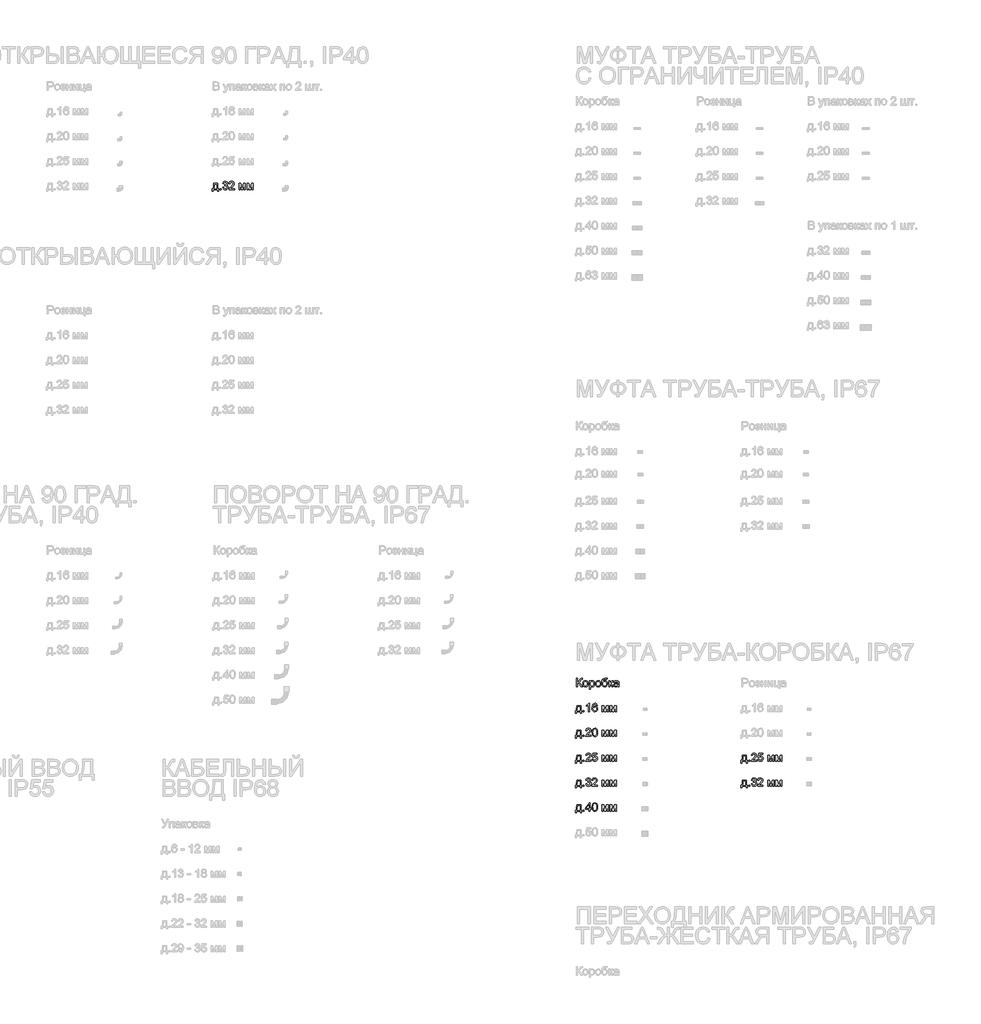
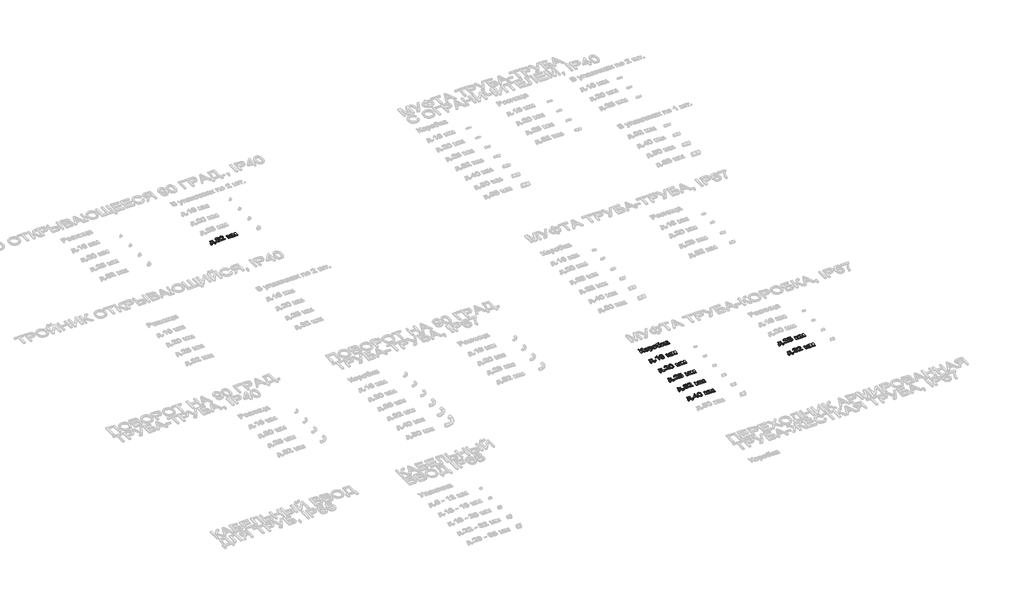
# One storey, part 70 of 98: 9 proxies.
"""IFC4 building model written with IfcOpenShell, lengths in millimetres."""

from ifc_helpers import new_model, si_unit, origin, origin_with_axes, place, context, project, spatial, polyline, outline, extrude, element, save

model = new_model("IFC4")

# Units and contexts
model_context = context("Model", 3, world=origin())
ifc_project = project(units=[si_unit("LENGTHUNIT", "METRE", prefix="MILLI")], contexts=[model_context])

# Site, building, storey
site = spatial("IfcSite", under=ifc_project)
building = spatial("IfcBuilding", under=site)
storey = spatial("IfcBuildingStorey", under=building, Name="Этаж 01", Elevation=0.0)

# Proxies
placement = place(None, origin())
element("IfcBuildingElementProxy", 1, Name="100", ObjectType="100", at=placement, inside=storey, context=model_context, shape_type="SweptSolid", body=[
    extrude(outline(polyline([(3973.0141865, -16285.7395637), (4020.1030819, -16285.7395637), (4020.1030819, -16346.9551277), (4029.520861, -16346.9551277), (4029.520861, -16379.9173545), (4016.9638222, -16379.9173545), (4016.9638222, -16359.5121665), (3965.1660373, -16359.5121665), (3965.1660373, -16379.9173545), (3952.6089985, -16379.9173545), (3952.6089985, -16346.9551277), (3960.4571478, -16346.9551277), (3970.1569697, -16323.0060098), (3973.0141865, -16285.7395637)]), holes=[polyline([(3984.0015955, -16298.2966025), (3981.0585395, -16326.905559), (3974.5838164, -16346.9551277), (4007.5460431, -16346.9551277), (4007.5460431, -16298.2966025), (3984.0015955, -16298.2966025)])]), origin_with_axes(), (0.0, 0.0, 1.0), 10.0),
    extrude(outline(polyline([(4046.7867893, -16359.5121665), (4046.7867893, -16346.9551277), (4059.3438281, -16346.9551277), (4059.3438281, -16359.5121665), (4046.7867893, -16359.5121665)])), origin_with_axes(), (0.0, 0.0, 1.0), 10.0),
    extrude(outline(polyline([(4079.7490161, -16332.8284591), (4092.3060548, -16331.2588292), (4099.2344991, -16344.4780556), (4112.196208, -16348.5247575), (4120.8046467, -16347.1329373), (4127.4510481, -16342.9574767), (4133.1164308, -16329.1741646), (4127.500099, -16316.1879302), (4113.2262776, -16311.049845), (4104.4216352, -16312.4232711), (4105.8195868, -16299.8662323), (4107.830675, -16300.0133851), (4122.079971, -16296.4081416), (4126.8256487, -16291.8341421), (4128.4075413, -16285.3226308), (4123.8212791, -16275.5001815), (4112.0000043, -16271.6128951), (4100.0315767, -16275.5369697), (4093.8756847, -16287.3091935), (4081.3186459, -16285.7395637), (4085.01586, -16274.4639805), (4091.5948163, -16266.0456142), (4100.5956625, -16260.8032958), (4111.5585459, -16259.0558563), (4126.7030214, -16262.5016843), (4137.2980228, -16271.9194634), (4140.9645801, -16284.5868668), (4137.4819638, -16296.1628869), (4127.181268, -16304.47702), (4140.8664782, -16313.0609332), (4145.6734696, -16329.3948938), (4143.2699739, -16341.6331015), (4136.0594868, -16351.860221), (4125.1763111, -16358.7764025), (4111.7547496, -16361.0817963), (4099.6146438, -16359.1136276), (4089.7308809, -16353.2091216), (4082.8576189, -16344.1776186), (4079.7490161, -16332.8284591)])), origin_with_axes(), (0.0, 0.0, 1.0), 10.0),
    extrude(outline(polyline([(4221.0157022, -16346.9551277), (4221.0157022, -16359.5121665), (4155.0912487, -16359.5121665), (4156.4401493, -16350.8546768), (4164.0675694, -16337.5250859), (4179.7883933, -16322.9692216), (4201.4689055, -16302.0489988), (4206.8890336, -16287.8242283), (4201.7754739, -16276.3095219), (4188.4213574, -16271.6128951), (4174.5031553, -16276.1991573), (4169.2179173, -16288.8788234), (4156.6608785, -16287.3091935), (4159.705102, -16275.1629563), (4166.2871241, -16266.2908689), (4176.0635881, -16260.8646095), (4188.6911376, -16259.0558563), (4201.4106576, -16261.0669445), (4211.1687275, -16267.1002093), (4217.3767361, -16276.1133182), (4219.4460724, -16287.0639389), (4217.2142549, -16298.9710528), (4209.7953014, -16311.2828369), (4191.8058718, -16328.4874515), (4177.3603721, -16340.5662437), (4171.6949894, -16346.9551277), (4221.0157022, -16346.9551277)])), origin_with_axes(), (0.0, 0.0, 1.0), 10.0),
    extrude(outline(polyline([(4275.9527468, -16285.7395637), (4297.5596827, -16285.7395637), (4314.2124743, -16344.7968867), (4332.1651157, -16285.7395637), (4352.8646093, -16285.7395637), (4352.8646093, -16359.5121665), (4340.3075705, -16359.5121665), (4340.3075705, -16300.111487), (4322.2568273, -16359.5121665), (4305.7757139, -16359.5121665), (4288.5097856, -16297.2665329), (4288.5097856, -16359.5121665), (4275.9527468, -16359.5121665), (4275.9527468, -16285.7395637)])), origin_with_axes(), (0.0, 0.0, 1.0), 10.0),
    extrude(outline(polyline([(4371.7001674, -16285.7395637), (4393.3071033, -16285.7395637), (4409.9598949, -16344.7968867), (4427.9125363, -16285.7395637), (4448.6120299, -16285.7395637), (4448.6120299, -16359.5121665), (4436.0549911, -16359.5121665), (4436.0549911, -16300.111487), (4418.0042479, -16359.5121665), (4401.5231345, -16359.5121665), (4384.2572062, -16297.2665329), (4384.2572062, -16359.5121665), (4371.7001674, -16359.5121665), (4371.7001674, -16285.7395637)])), origin_with_axes(), (0.0, 0.0, 1.0), 10.0),
])
element("IfcBuildingElementProxy", 2, Name="100", ObjectType="100", at=placement, inside=storey, context=model_context, shape_type="SweptSolid", body=[
    extrude(outline(polyline([(8356.3281893, -22585.7395637), (8403.4170847, -22585.7395637), (8403.4170847, -22646.9551277), (8412.8348638, -22646.9551277), (8412.8348638, -22679.9173545), (8400.277825, -22679.9173545), (8400.277825, -22659.5121665), (8348.4800401, -22659.5121665), (8348.4800401, -22679.9173545), (8335.9230013, -22679.9173545), (8335.9230013, -22646.9551277), (8343.7711505, -22646.9551277), (8353.4709725, -22623.0060098), (8356.3281893, -22585.7395637)]), holes=[polyline([(8367.3155982, -22598.2966025), (8364.3725423, -22626.905559), (8357.8978192, -22646.9551277), (8390.8600459, -22646.9551277), (8390.8600459, -22598.2966025), (8367.3155982, -22598.2966025)])]), origin_with_axes(), (0.0, 0.0, 1.0), 10.0),
    extrude(outline(polyline([(8430.1007921, -22659.5121665), (8430.1007921, -22646.9551277), (8442.6578308, -22646.9551277), (8442.6578308, -22659.5121665), (8430.1007921, -22659.5121665)])), origin_with_axes(), (0.0, 0.0, 1.0), 10.0),
    extrude(outline(polyline([(8510.1519142, -22659.5121665), (8497.5948755, -22659.5121665), (8497.5948755, -22581.2268779), (8485.7000243, -22589.7004265), (8472.4807979, -22596.0402596), (8472.4807979, -22584.1699338), (8490.8871604, -22572.4222355), (8502.0585103, -22559.0558563), (8510.1519142, -22559.0558563), (8510.1519142, -22659.5121665)])), origin_with_axes(), (0.0, 0.0, 1.0), 10.0),
    extrude(outline(polyline([(8604.329705, -22585.7395637), (8591.7726662, -22587.3091935), (8587.0147258, -22576.8368194), (8574.4331615, -22571.6128951), (8563.1023961, -22574.6540529), (8554.5307456, -22586.0706575), (8550.9622902, -22608.4501455), (8562.0355383, -22598.4314925), (8575.7575367, -22595.1573428), (8587.3580823, -22597.3952916), (8597.0946924, -22604.109138), (8603.6981742, -22614.3669143), (8605.8993348, -22627.2366527), (8601.754531, -22644.5638947), (8590.3501892, -22656.8266279), (8573.8936013, -22661.0817963), (8559.647371, -22658.2613677), (8548.3012771, -22649.8000818), (8540.8792579, -22634.8640728), (8538.4052515, -22612.6194748), (8541.1521037, -22587.6096305), (8549.3926604, -22570.5092491), (8560.6437181, -22561.9192045), (8575.2179764, -22559.0558563), (8586.2360422, -22560.8278213), (8595.0590787, -22566.1437161), (8601.2394962, -22574.5866079), (8604.329705, -22585.7395637)]), holes=[polyline([(8550.9622902, -22627.040449), (8553.868558, -22637.9174933), (8561.5940799, -22645.8146935), (8572.9125826, -22648.5247575), (8581.1991245, -22647.1206746), (8587.7137015, -22642.9084257), (8591.9351474, -22636.2865498), (8593.3422961, -22627.6535857), (8591.9535415, -22619.3670437), (8587.7872779, -22613.0486705), (8581.1623363, -22609.0479538), (8572.3975478, -22607.7143815), (8557.2040214, -22613.0486705), (8552.522723, -22619.2137596), (8550.9622902, -22627.040449)])]), origin_with_axes(), (0.0, 0.0, 1.0), 10.0),
    extrude(outline(polyline([(8659.2667496, -22585.7395637), (8680.8736855, -22585.7395637), (8697.5264771, -22644.7968867), (8715.4791185, -22585.7395637), (8736.1786121, -22585.7395637), (8736.1786121, -22659.5121665), (8723.6215733, -22659.5121665), (8723.6215733, -22600.111487), (8705.5708301, -22659.5121665), (8689.0897167, -22659.5121665), (8671.8237884, -22597.2665329), (8671.8237884, -22659.5121665), (8659.2667496, -22659.5121665), (8659.2667496, -22585.7395637)])), origin_with_axes(), (0.0, 0.0, 1.0), 10.0),
    extrude(outline(polyline([(8755.0141702, -22585.7395637), (8776.6211061, -22585.7395637), (8793.2738977, -22644.7968867), (8811.2265391, -22585.7395637), (8831.9260327, -22585.7395637), (8831.9260327, -22659.5121665), (8819.3689939, -22659.5121665), (8819.3689939, -22600.111487), (8801.3182507, -22659.5121665), (8784.8371373, -22659.5121665), (8767.571209, -22597.2665329), (8767.571209, -22659.5121665), (8755.0141702, -22659.5121665), (8755.0141702, -22585.7395637)])), origin_with_axes(), (0.0, 0.0, 1.0), 10.0),
])
element("IfcBuildingElementProxy", 3, Name="100", ObjectType="100", at=placement, inside=storey, context=model_context, shape_type="SweptSolid", body=[
    extrude(outline(polyline([(8349.7389883, -22259.0558563), (8362.2960271, -22259.0558563), (8362.2960271, -22303.005492), (8376.3368566, -22299.6822913), (8386.1347804, -22282.8700841), (8393.0632246, -22268.8292546), (8400.9113739, -22261.8762849), (8412.1317747, -22259.0558563), (8420.3723314, -22259.2030091), (8420.3723314, -22271.7600479), (8417.6009537, -22271.6864715), (8414.829576, -22271.6128951), (8405.0193895, -22274.6295274), (8397.5636477, -22287.5544482), (8388.6731662, -22303.2997976), (8380.0034138, -22308.4991965), (8389.6971044, -22314.1768419), (8399.2559049, -22326.0103794), (8420.3723314, -22359.5121665), (8405.8042044, -22359.5121665), (8387.9496649, -22331.2097783), (8375.3803634, -22316.4331848), (8362.2960271, -22312.4232711), (8362.2960271, -22359.5121665), (8349.7389883, -22359.5121665), (8349.7389883, -22259.0558563)])), origin_with_axes(), (0.0, 0.0, 1.0), 10.0),
    extrude(outline(polyline([(8426.6508508, -22322.6258651), (8429.3670462, -22304.8387706), (8437.5156324, -22292.3369141), (8447.5833363, -22286.2116789), (8459.637603, -22284.1699338), (8472.8292382, -22286.656203), (8483.3659917, -22294.1150104), (8490.2729762, -22305.957745), (8492.5753043, -22321.5957955), (8488.5040769, -22343.9384953), (8476.6460139, -22356.5813732), (8459.637603, -22361.0817963), (8446.2865523, -22358.6047242), (8435.7620615, -22351.1735079), (8428.9286535, -22339.082453), (8426.6508508, -22322.6258651)]), holes=[polyline([(8439.2078896, -22322.6013396), (8440.6610235, -22333.9658276), (8445.0204251, -22342.0622972), (8451.5809873, -22346.9091424), (8459.637603, -22348.5247575), (8467.6574305, -22346.8999454), (8474.20573, -22342.025509), (8478.5651317, -22333.8217405), (8480.0182656, -22322.2089321), (8478.5559346, -22311.175538), (8474.1689418, -22303.189433), (8467.6114453, -22298.3425877), (8459.637603, -22296.7269726), (8451.5809873, -22298.3364563), (8445.0204251, -22303.1649075), (8440.6610235, -22311.242983), (8439.2078896, -22322.6013396)])]), origin_with_axes(), (0.0, 0.0, 1.0), 10.0),
    extrude(outline(polyline([(8506.701973, -22387.7655037), (8506.701973, -22285.7395637), (8519.2590117, -22285.7395637), (8519.2590117, -22298.0513478), (8527.9410268, -22287.6402873), (8539.6641997, -22284.1699338), (8555.5812274, -22289.0259762), (8565.9800251, -22302.7111864), (8569.4871668, -22322.0617793), (8565.526304, -22342.4056537), (8554.0238603, -22356.2625422), (8538.1436208, -22361.0817963), (8527.2175256, -22357.8566975), (8519.2590117, -22349.7019799), (8519.2590117, -22387.7655037), (8506.701973, -22387.7655037)]), holes=[polyline([(8519.2590117, -22323.2144763), (8520.6171094, -22334.4716653), (8524.6914025, -22342.34434), (8530.7032075, -22346.9796532), (8537.8738407, -22348.5247575), (8545.1609699, -22346.9244709), (8551.326059, -22342.1236108), (8555.5291108, -22333.9627619), (8556.930128, -22322.2825085), (8555.5628333, -22311.0866332), (8551.460949, -22303.1035939), (8545.4583411, -22298.3211279), (8538.3888755, -22296.7269726), (8531.2918186, -22298.4222955), (8525.0592845, -22303.5082641), (8520.7090799, -22311.8254628), (8519.2590117, -22323.2144763)])]), origin_with_axes(), (0.0, 0.0, 1.0), 10.0),
    extrude(outline(polyline([(8580.4745757, -22322.6258651), (8583.1907711, -22304.8387706), (8591.3393573, -22292.3369141), (8601.4070612, -22286.2116789), (8613.461328, -22284.1699338), (8626.6529632, -22286.656203), (8637.1897166, -22294.1150104), (8644.0967011, -22305.957745), (8646.3990293, -22321.5957955), (8642.3278018, -22343.9384953), (8630.4697389, -22356.5813732), (8613.461328, -22361.0817963), (8600.1102772, -22358.6047242), (8589.5857865, -22351.1735079), (8582.7523784, -22339.082453), (8580.4745757, -22322.6258651)]), holes=[polyline([(8593.0316145, -22322.6013396), (8594.4847484, -22333.9658276), (8598.84415, -22342.0622972), (8605.4047123, -22346.9091424), (8613.461328, -22348.5247575), (8621.4811554, -22346.8999454), (8628.029455, -22342.025509), (8632.3888566, -22333.8217405), (8633.8419905, -22322.2089321), (8632.3796596, -22311.175538), (8627.9926668, -22303.189433), (8621.4351702, -22298.3425877), (8613.461328, -22296.7269726), (8605.4047123, -22298.3364563), (8598.84415, -22303.1649075), (8594.4847484, -22311.242983), (8593.0316145, -22322.6013396)])]), origin_with_axes(), (0.0, 0.0, 1.0), 10.0),
    extrude(outline(polyline([(8712.3234828, -22257.4862265), (8723.3108917, -22257.4862265), (8720.0735302, -22267.2841503), (8713.6723834, -22270.8280802), (8698.294916, -22271.6128951), (8677.5831597, -22274.5069001), (8669.6369086, -22283.7775264), (8666.9513701, -22300.1850634), (8677.8284144, -22288.1675849), (8691.8447184, -22284.1699338), (8704.9106606, -22286.7113853), (8715.5117934, -22294.3357396), (8722.5383395, -22306.2949702), (8724.8805216, -22321.8410502), (8720.2329457, -22343.447986), (8709.2087486, -22356.4832714), (8691.8447184, -22361.0817963), (8680.5108873, -22359.6010713), (8672.0158789, -22355.1588962), (8661.16336, -22340.002158), (8657.3864382, -22307.8370089), (8659.7684741, -22283.7438039), (8666.9145819, -22269.0499838), (8679.0025711, -22261.5543882), (8696.2102514, -22259.0558563), (8710.1897672, -22258.7738134), (8712.3234828, -22257.4862265)]), holes=[polyline([(8712.3234828, -22321.4486427), (8710.9623194, -22311.5679454), (8706.8788293, -22303.6554169), (8700.318267, -22298.4590837), (8691.5258873, -22296.7269726), (8682.3594943, -22298.5571855), (8675.5598087, -22304.0478243), (8671.3475599, -22312.598015), (8669.9434769, -22323.6068837), (8671.4947127, -22334.2785273), (8676.1484199, -22342.1113481), (8683.0768642, -22346.9214052), (8691.4523109, -22348.5247575), (8699.8706773, -22346.6700191), (8706.5354727, -22341.105804), (8710.8764803, -22332.4820369), (8712.3234828, -22321.4486427)])]), origin_with_axes(), (0.0, 0.0, 1.0), 10.0),
    extrude(outline(polyline([(8740.57682, -22285.7395637), (8753.1338588, -22285.7395637), (8753.1338588, -22317.1321606), (8761.5460937, -22314.8758177), (8768.4377498, -22301.7301677), (8774.1644462, -22290.3871396), (8779.2166922, -22286.6960569), (8788.4014794, -22285.7395637), (8790.8049751, -22285.7395637), (8790.8049751, -22298.3701789), (8787.4204607, -22298.2966025), (8781.2890942, -22299.6209776), (8776.9726121, -22307.8860598), (8771.9081033, -22316.8255923), (8764.8079808, -22321.203388), (8772.7297064, -22326.0900872), (8780.5042792, -22336.3846517), (8793.9442348, -22359.5121665), (8779.6704134, -22359.5121665), (8766.5002379, -22336.875161), (8759.878362, -22327.2979664), (8753.1338588, -22324.9803098), (8753.1338588, -22359.5121665), (8740.57682, -22359.5121665), (8740.57682, -22285.7395637)])), origin_with_axes(), (0.0, 0.0, 1.0), 10.0),
    extrude(outline(polyline([(8848.8812794, -22350.0943874), (8836.7043854, -22358.6047242), (8823.2521671, -22361.0817963), (8812.7583332, -22359.5918742), (8805.0174828, -22355.122108), (8800.244214, -22348.3346852), (8798.6531243, -22339.8917934), (8801.05662, -22329.9589795), (8807.3719276, -22322.7484924), (8816.1643073, -22318.6282141), (8827.0290889, -22316.7397532), (8848.807703, -22312.4232711), (8848.8812794, -22309.6273679), (8845.4231886, -22300.3567416), (8831.5417747, -22296.7269726), (8818.8375831, -22299.1427311), (8812.7797929, -22307.7143815), (8800.2227542, -22306.1447517), (8805.655145, -22293.8820185), (8816.593503, -22286.6960569), (8833.1604555, -22284.1699338), (8848.3785073, -22286.4017513), (8856.9746833, -22292.0058203), (8860.8251815, -22300.5284199), (8861.4383182, -22311.5158288), (8861.4383182, -22327.1385509), (8862.0759803, -22348.9539532), (8864.5775779, -22359.5121665), (8852.0205391, -22359.5121665), (8848.8812794, -22350.0943874)]), holes=[polyline([(8848.8812794, -22324.9803098), (8828.6232442, -22328.8308081), (8817.8197763, -22330.8664218), (8812.9269457, -22334.1773597), (8811.2101631, -22339.0088766), (8814.9502967, -22345.8024308), (8825.9254429, -22348.5247575), (8838.6296345, -22345.5203879), (8846.8211402, -22338.2485871), (8848.807703, -22328.5365025), (8848.8812794, -22324.9803098)])]), origin_with_axes(), (0.0, 0.0, 1.0), 10.0),
])
element("IfcBuildingElementProxy", 4, Name="100", ObjectType="100", at=placement, inside=storey, context=model_context, shape_type="SweptSolid", body=[
    extrude(outline(polyline([(8356.3281893, -22885.7395637), (8403.4170847, -22885.7395637), (8403.4170847, -22946.9551277), (8412.8348638, -22946.9551277), (8412.8348638, -22979.9173545), (8400.277825, -22979.9173545), (8400.277825, -22959.5121665), (8348.4800401, -22959.5121665), (8348.4800401, -22979.9173545), (8335.9230013, -22979.9173545), (8335.9230013, -22946.9551277), (8343.7711505, -22946.9551277), (8353.4709725, -22923.0060098), (8356.3281893, -22885.7395637)]), holes=[polyline([(8367.3155982, -22898.2966025), (8364.3725423, -22926.905559), (8357.8978192, -22946.9551277), (8390.8600459, -22946.9551277), (8390.8600459, -22898.2966025), (8367.3155982, -22898.2966025)])]), origin_with_axes(), (0.0, 0.0, 1.0), 10.0),
    extrude(outline(polyline([(8430.1007921, -22959.5121665), (8430.1007921, -22946.9551277), (8442.6578308, -22946.9551277), (8442.6578308, -22959.5121665), (8430.1007921, -22959.5121665)])), origin_with_axes(), (0.0, 0.0, 1.0), 10.0),
    extrude(outline(polyline([(8527.4178425, -22946.9551277), (8527.4178425, -22959.5121665), (8461.493389, -22959.5121665), (8462.8422896, -22950.8546768), (8470.4697097, -22937.5250859), (8486.1905336, -22922.9692216), (8507.8710459, -22902.0489988), (8513.2911739, -22887.8242283), (8508.1776142, -22876.3095219), (8494.8234978, -22871.6128951), (8480.9052956, -22876.1991573), (8475.6200576, -22888.8788234), (8463.0630188, -22887.3091935), (8466.1072424, -22875.1629563), (8472.6892644, -22866.2908689), (8482.4657284, -22860.8646095), (8495.0932779, -22859.0558563), (8507.8127979, -22861.0669445), (8517.5708678, -22867.1002093), (8523.7788765, -22876.1133182), (8525.8482127, -22887.0639389), (8523.6163953, -22898.9710528), (8516.1974417, -22911.2828369), (8498.2080121, -22928.4874515), (8483.7625124, -22940.5662437), (8478.0971297, -22946.9551277), (8527.4178425, -22946.9551277)])), origin_with_axes(), (0.0, 0.0, 1.0), 10.0),
    extrude(outline(polyline([(8539.9748813, -22910.0933518), (8543.665964, -22881.1900897), (8554.6288474, -22864.5250353), (8572.9371081, -22859.0558563), (8587.6033369, -22862.2932179), (8597.7323545, -22871.6251578), (8603.6184665, -22886.4875904), (8605.8993348, -22910.0933518), (8602.2450404, -22938.8739865), (8591.3189451, -22955.5758291), (8583.0875855, -22959.7053045), (8572.9371081, -22961.0817963), (8559.88956, -22958.6905633), (8549.9812716, -22951.5168644), (8542.4764789, -22934.5268476), (8539.9748813, -22910.0933518)]), holes=[polyline([(8552.5319201, -22910.0688263), (8554.0034481, -22929.8210238), (8558.418032, -22941.2529568), (8564.990857, -22946.7068073), (8572.9371081, -22948.5247575), (8580.8833592, -22946.700676), (8587.4561841, -22941.2284313), (8591.8707681, -22929.7903669), (8593.3422961, -22910.0688263), (8591.919819, -22890.7611529), (8587.6523879, -22879.2403151), (8581.0918256, -22873.5197501), (8572.7899553, -22871.6128951), (8564.9295433, -22873.2928895), (8558.6142357, -22878.3328729), (8554.052499, -22890.5710806), (8552.5319201, -22910.0688263)])]), origin_with_axes(), (0.0, 0.0, 1.0), 10.0),
    extrude(outline(polyline([(8659.2667496, -22885.7395637), (8680.8736855, -22885.7395637), (8697.5264771, -22944.7968867), (8715.4791185, -22885.7395637), (8736.1786121, -22885.7395637), (8736.1786121, -22959.5121665), (8723.6215733, -22959.5121665), (8723.6215733, -22900.111487), (8705.5708301, -22959.5121665), (8689.0897167, -22959.5121665), (8671.8237884, -22897.2665329), (8671.8237884, -22959.5121665), (8659.2667496, -22959.5121665), (8659.2667496, -22885.7395637)])), origin_with_axes(), (0.0, 0.0, 1.0), 10.0),
    extrude(outline(polyline([(8755.0141702, -22885.7395637), (8776.6211061, -22885.7395637), (8793.2738977, -22944.7968867), (8811.2265391, -22885.7395637), (8831.9260327, -22885.7395637), (8831.9260327, -22959.5121665), (8819.3689939, -22959.5121665), (8819.3689939, -22900.111487), (8801.3182507, -22959.5121665), (8784.8371373, -22959.5121665), (8767.571209, -22897.2665329), (8767.571209, -22959.5121665), (8755.0141702, -22959.5121665), (8755.0141702, -22885.7395637)])), origin_with_axes(), (0.0, 0.0, 1.0), 10.0),
])
element("IfcBuildingElementProxy", 5, Name="100", ObjectType="100", at=placement, inside=storey, context=model_context, shape_type="SweptSolid", body=[
    extrude(outline(polyline([(8356.3281893, -23185.7395637), (8403.4170847, -23185.7395637), (8403.4170847, -23246.9551277), (8412.8348638, -23246.9551277), (8412.8348638, -23279.9173545), (8400.277825, -23279.9173545), (8400.277825, -23259.5121665), (8348.4800401, -23259.5121665), (8348.4800401, -23279.9173545), (8335.9230013, -23279.9173545), (8335.9230013, -23246.9551277), (8343.7711505, -23246.9551277), (8353.4709725, -23223.0060098), (8356.3281893, -23185.7395637)]), holes=[polyline([(8367.3155982, -23198.2966025), (8364.3725423, -23226.905559), (8357.8978192, -23246.9551277), (8390.8600459, -23246.9551277), (8390.8600459, -23198.2966025), (8367.3155982, -23198.2966025)])]), origin_with_axes(), (0.0, 0.0, 1.0), 10.0),
    extrude(outline(polyline([(8430.1007921, -23259.5121665), (8430.1007921, -23246.9551277), (8442.6578308, -23246.9551277), (8442.6578308, -23259.5121665), (8430.1007921, -23259.5121665)])), origin_with_axes(), (0.0, 0.0, 1.0), 10.0),
    extrude(outline(polyline([(8527.4178425, -23246.9551277), (8527.4178425, -23259.5121665), (8461.493389, -23259.5121665), (8462.8422896, -23250.8546768), (8470.4697097, -23237.5250859), (8486.1905336, -23222.9692216), (8507.8710459, -23202.0489988), (8513.2911739, -23187.8242283), (8508.1776142, -23176.3095219), (8494.8234978, -23171.6128951), (8480.9052956, -23176.1991573), (8475.6200576, -23188.8788234), (8463.0630188, -23187.3091935), (8466.1072424, -23175.1629563), (8472.6892644, -23166.2908689), (8482.4657284, -23160.8646095), (8495.0932779, -23159.0558563), (8507.8127979, -23161.0669445), (8517.5708678, -23167.1002093), (8523.7788765, -23176.1133182), (8525.8482127, -23187.0639389), (8523.6163953, -23198.9710528), (8516.1974417, -23211.2828369), (8498.2080121, -23228.4874515), (8483.7625124, -23240.5662437), (8478.0971297, -23246.9551277), (8527.4178425, -23246.9551277)])), origin_with_axes(), (0.0, 0.0, 1.0), 10.0),
    extrude(outline(polyline([(8539.9748813, -23232.8284591), (8552.5319201, -23231.2588292), (8558.8594904, -23244.1960127), (8571.9806149, -23248.5247575), (8580.981461, -23247.019507), (8587.7259643, -23242.5037555), (8591.9382131, -23235.4986692), (8593.3422961, -23226.5254142), (8588.0815835, -23211.6139307), (8581.475036, -23207.5120464), (8572.1768186, -23206.1447517), (8561.1526215, -23208.3275182), (8554.1015499, -23213.9929009), (8541.5445111, -23212.4232711), (8552.5319201, -23160.6254862), (8601.1904453, -23160.6254862), (8601.1904453, -23173.1825249), (8562.6854631, -23173.1825249), (8557.314386, -23200.847251), (8566.2845753, -23195.4025974), (8575.6839603, -23193.5877129), (8587.4163303, -23195.8379245), (8597.1560061, -23202.5885591), (8603.7135027, -23212.8769922), (8605.8993348, -23225.7405993), (8603.9311662, -23238.2976381), (8598.0266601, -23249.0397923), (8586.7204202, -23258.0712953), (8571.931564, -23261.0817963), (8559.5983201, -23259.1473501), (8549.7728051, -23253.3440117), (8543.0374989, -23244.3462312), (8539.9748813, -23232.8284591)])), origin_with_axes(), (0.0, 0.0, 1.0), 10.0),
    extrude(outline(polyline([(8659.2667496, -23185.7395637), (8680.8736855, -23185.7395637), (8697.5264771, -23244.7968867), (8715.4791185, -23185.7395637), (8736.1786121, -23185.7395637), (8736.1786121, -23259.5121665), (8723.6215733, -23259.5121665), (8723.6215733, -23200.111487), (8705.5708301, -23259.5121665), (8689.0897167, -23259.5121665), (8671.8237884, -23197.2665329), (8671.8237884, -23259.5121665), (8659.2667496, -23259.5121665), (8659.2667496, -23185.7395637)])), origin_with_axes(), (0.0, 0.0, 1.0), 10.0),
    extrude(outline(polyline([(8755.0141702, -23185.7395637), (8776.6211061, -23185.7395637), (8793.2738977, -23244.7968867), (8811.2265391, -23185.7395637), (8831.9260327, -23185.7395637), (8831.9260327, -23259.5121665), (8819.3689939, -23259.5121665), (8819.3689939, -23200.111487), (8801.3182507, -23259.5121665), (8784.8371373, -23259.5121665), (8767.571209, -23197.2665329), (8767.571209, -23259.5121665), (8755.0141702, -23259.5121665), (8755.0141702, -23185.7395637)])), origin_with_axes(), (0.0, 0.0, 1.0), 10.0),
])
element("IfcBuildingElementProxy", 6, Name="100", ObjectType="100", at=placement, inside=storey, context=model_context, shape_type="SweptSolid", body=[
    extrude(outline(polyline([(8356.3281893, -23485.7395637), (8403.4170847, -23485.7395637), (8403.4170847, -23546.9551277), (8412.8348638, -23546.9551277), (8412.8348638, -23579.9173545), (8400.277825, -23579.9173545), (8400.277825, -23559.5121665), (8348.4800401, -23559.5121665), (8348.4800401, -23579.9173545), (8335.9230013, -23579.9173545), (8335.9230013, -23546.9551277), (8343.7711505, -23546.9551277), (8353.4709725, -23523.0060098), (8356.3281893, -23485.7395637)]), holes=[polyline([(8367.3155982, -23498.2966025), (8364.3725423, -23526.905559), (8357.8978192, -23546.9551277), (8390.8600459, -23546.9551277), (8390.8600459, -23498.2966025), (8367.3155982, -23498.2966025)])]), origin_with_axes(), (0.0, 0.0, 1.0), 10.0),
    extrude(outline(polyline([(8430.1007921, -23559.5121665), (8430.1007921, -23546.9551277), (8442.6578308, -23546.9551277), (8442.6578308, -23559.5121665), (8430.1007921, -23559.5121665)])), origin_with_axes(), (0.0, 0.0, 1.0), 10.0),
    extrude(outline(polyline([(8463.0630188, -23532.8284591), (8475.6200576, -23531.2588292), (8482.5485019, -23544.4780556), (8495.5102108, -23548.5247575), (8504.1186495, -23547.1329373), (8510.7650509, -23542.9574767), (8516.4304336, -23529.1741646), (8510.8141018, -23516.1879302), (8496.5402804, -23511.049845), (8487.735638, -23512.4232711), (8489.1335896, -23499.8662323), (8491.1446778, -23500.0133851), (8505.3939738, -23496.4081416), (8510.1396515, -23491.8341421), (8511.7215441, -23485.3226308), (8507.1352819, -23475.5001815), (8495.3140071, -23471.6128951), (8483.3455795, -23475.5369697), (8477.1896875, -23487.3091935), (8464.6326487, -23485.7395637), (8468.3298627, -23474.4639805), (8474.9088191, -23466.0456142), (8483.9096652, -23460.8032958), (8494.8725487, -23459.0558563), (8510.0170242, -23462.5016843), (8520.6120256, -23471.9194634), (8524.2785828, -23484.5868668), (8520.7959666, -23496.1628869), (8510.4952708, -23504.47702), (8524.180481, -23513.0609332), (8528.9874724, -23529.3948938), (8526.5839767, -23541.6331015), (8519.3734896, -23551.860221), (8508.4903139, -23558.7764025), (8495.0687524, -23561.0817963), (8482.9286466, -23559.1136276), (8473.0448836, -23553.2091216), (8466.1716217, -23544.1776186), (8463.0630188, -23532.8284591)])), origin_with_axes(), (0.0, 0.0, 1.0), 10.0),
    extrude(outline(polyline([(8604.329705, -23546.9551277), (8604.329705, -23559.5121665), (8538.4052515, -23559.5121665), (8539.7541521, -23550.8546768), (8547.3815721, -23537.5250859), (8563.1023961, -23522.9692216), (8584.7829083, -23502.0489988), (8590.2030364, -23487.8242283), (8585.0894766, -23476.3095219), (8571.7353602, -23471.6128951), (8557.8171581, -23476.1991573), (8552.5319201, -23488.8788234), (8539.9748813, -23487.3091935), (8543.0191048, -23475.1629563), (8549.6011268, -23466.2908689), (8559.3775909, -23460.8646095), (8572.0051403, -23459.0558563), (8584.7246603, -23461.0669445), (8594.4827303, -23467.1002093), (8600.6907389, -23476.1133182), (8602.7600751, -23487.0639389), (8600.5282577, -23498.9710528), (8593.1093041, -23511.2828369), (8575.1198746, -23528.4874515), (8560.6743749, -23540.5662437), (8555.0089922, -23546.9551277), (8604.329705, -23546.9551277)])), origin_with_axes(), (0.0, 0.0, 1.0), 10.0),
    extrude(outline(polyline([(8659.2667496, -23485.7395637), (8680.8736855, -23485.7395637), (8697.5264771, -23544.7968867), (8715.4791185, -23485.7395637), (8736.1786121, -23485.7395637), (8736.1786121, -23559.5121665), (8723.6215733, -23559.5121665), (8723.6215733, -23500.111487), (8705.5708301, -23559.5121665), (8689.0897167, -23559.5121665), (8671.8237884, -23497.2665329), (8671.8237884, -23559.5121665), (8659.2667496, -23559.5121665), (8659.2667496, -23485.7395637)])), origin_with_axes(), (0.0, 0.0, 1.0), 10.0),
    extrude(outline(polyline([(8755.0141702, -23485.7395637), (8776.6211061, -23485.7395637), (8793.2738977, -23544.7968867), (8811.2265391, -23485.7395637), (8831.9260327, -23485.7395637), (8831.9260327, -23559.5121665), (8819.3689939, -23559.5121665), (8819.3689939, -23500.111487), (8801.3182507, -23559.5121665), (8784.8371373, -23559.5121665), (8767.571209, -23497.2665329), (8767.571209, -23559.5121665), (8755.0141702, -23559.5121665), (8755.0141702, -23485.7395637)])), origin_with_axes(), (0.0, 0.0, 1.0), 10.0),
])
element("IfcBuildingElementProxy", 7, Name="100", ObjectType="100", at=placement, inside=storey, context=model_context, shape_type="SweptSolid", body=[
    extrude(outline(polyline([(8356.3281893, -23785.7395637), (8403.4170847, -23785.7395637), (8403.4170847, -23846.9551277), (8412.8348638, -23846.9551277), (8412.8348638, -23879.9173545), (8400.277825, -23879.9173545), (8400.277825, -23859.5121665), (8348.4800401, -23859.5121665), (8348.4800401, -23879.9173545), (8335.9230013, -23879.9173545), (8335.9230013, -23846.9551277), (8343.7711505, -23846.9551277), (8353.4709725, -23823.0060098), (8356.3281893, -23785.7395637)]), holes=[polyline([(8367.3155982, -23798.2966025), (8364.3725423, -23826.905559), (8357.8978192, -23846.9551277), (8390.8600459, -23846.9551277), (8390.8600459, -23798.2966025), (8367.3155982, -23798.2966025)])]), origin_with_axes(), (0.0, 0.0, 1.0), 10.0),
    extrude(outline(polyline([(8430.1007921, -23859.5121665), (8430.1007921, -23846.9551277), (8442.6578308, -23846.9551277), (8442.6578308, -23859.5121665), (8430.1007921, -23859.5121665)])), origin_with_axes(), (0.0, 0.0, 1.0), 10.0),
    extrude(outline(polyline([(8503.8733948, -23859.5121665), (8503.8733948, -23835.9677188), (8458.3541293, -23835.9677188), (8458.3541293, -23823.41068), (8507.0126545, -23760.6254862), (8516.4304336, -23760.6254862), (8516.4304336, -23823.41068), (8528.9874724, -23823.41068), (8528.9874724, -23835.9677188), (8516.4304336, -23835.9677188), (8516.4304336, -23859.5121665), (8503.8733948, -23859.5121665)]), holes=[polyline([(8503.8733948, -23823.41068), (8503.8733948, -23784.6113922), (8473.8051731, -23823.41068), (8503.8733948, -23823.41068)])]), origin_with_axes(), (0.0, 0.0, 1.0), 10.0),
    extrude(outline(polyline([(8539.9748813, -23810.0933518), (8543.665964, -23781.1900897), (8554.6288474, -23764.5250353), (8572.9371081, -23759.0558563), (8587.6033369, -23762.2932179), (8597.7323545, -23771.6251578), (8603.6184665, -23786.4875904), (8605.8993348, -23810.0933518), (8602.2450404, -23838.8739865), (8591.3189451, -23855.5758291), (8583.0875855, -23859.7053045), (8572.9371081, -23861.0817963), (8559.88956, -23858.6905633), (8549.9812716, -23851.5168644), (8542.4764789, -23834.5268476), (8539.9748813, -23810.0933518)]), holes=[polyline([(8552.5319201, -23810.0688263), (8554.0034481, -23829.8210238), (8558.418032, -23841.2529568), (8564.990857, -23846.7068073), (8572.9371081, -23848.5247575), (8580.8833592, -23846.700676), (8587.4561841, -23841.2284313), (8591.8707681, -23829.7903669), (8593.3422961, -23810.0688263), (8591.919819, -23790.7611529), (8587.6523879, -23779.2403151), (8581.0918256, -23773.5197501), (8572.7899553, -23771.6128951), (8564.9295433, -23773.2928895), (8558.6142357, -23778.3328729), (8554.052499, -23790.5710806), (8552.5319201, -23810.0688263)])]), origin_with_axes(), (0.0, 0.0, 1.0), 10.0),
    extrude(outline(polyline([(8659.2667496, -23785.7395637), (8680.8736855, -23785.7395637), (8697.5264771, -23844.7968867), (8715.4791185, -23785.7395637), (8736.1786121, -23785.7395637), (8736.1786121, -23859.5121665), (8723.6215733, -23859.5121665), (8723.6215733, -23800.111487), (8705.5708301, -23859.5121665), (8689.0897167, -23859.5121665), (8671.8237884, -23797.2665329), (8671.8237884, -23859.5121665), (8659.2667496, -23859.5121665), (8659.2667496, -23785.7395637)])), origin_with_axes(), (0.0, 0.0, 1.0), 10.0),
    extrude(outline(polyline([(8755.0141702, -23785.7395637), (8776.6211061, -23785.7395637), (8793.2738977, -23844.7968867), (8811.2265391, -23785.7395637), (8831.9260327, -23785.7395637), (8831.9260327, -23859.5121665), (8819.3689939, -23859.5121665), (8819.3689939, -23800.111487), (8801.3182507, -23859.5121665), (8784.8371373, -23859.5121665), (8767.571209, -23797.2665329), (8767.571209, -23859.5121665), (8755.0141702, -23859.5121665), (8755.0141702, -23785.7395637)])), origin_with_axes(), (0.0, 0.0, 1.0), 10.0),
])
element("IfcBuildingElementProxy", 8, Name="100", ObjectType="100", at=placement, inside=storey, context=model_context, shape_type="SweptSolid", body=[
    extrude(outline(polyline([(10356.3281893, -23185.7395637), (10403.4170847, -23185.7395637), (10403.4170847, -23246.9551277), (10412.8348638, -23246.9551277), (10412.8348638, -23279.9173545), (10400.277825, -23279.9173545), (10400.277825, -23259.5121665), (10348.4800401, -23259.5121665), (10348.4800401, -23279.9173545), (10335.9230013, -23279.9173545), (10335.9230013, -23246.9551277), (10343.7711505, -23246.9551277), (10353.4709725, -23223.0060098), (10356.3281893, -23185.7395637)]), holes=[polyline([(10367.3155982, -23198.2966025), (10364.3725423, -23226.905559), (10357.8978192, -23246.9551277), (10390.8600459, -23246.9551277), (10390.8600459, -23198.2966025), (10367.3155982, -23198.2966025)])]), origin_with_axes(), (0.0, 0.0, 1.0), 10.0),
    extrude(outline(polyline([(10430.1007921, -23259.5121665), (10430.1007921, -23246.9551277), (10442.6578308, -23246.9551277), (10442.6578308, -23259.5121665), (10430.1007921, -23259.5121665)])), origin_with_axes(), (0.0, 0.0, 1.0), 10.0),
    extrude(outline(polyline([(10527.4178425, -23246.9551277), (10527.4178425, -23259.5121665), (10461.493389, -23259.5121665), (10462.8422896, -23250.8546768), (10470.4697097, -23237.5250859), (10486.1905336, -23222.9692216), (10507.8710459, -23202.0489988), (10513.2911739, -23187.8242283), (10508.1776142, -23176.3095219), (10494.8234978, -23171.6128951), (10480.9052956, -23176.1991573), (10475.6200576, -23188.8788234), (10463.0630188, -23187.3091935), (10466.1072424, -23175.1629563), (10472.6892644, -23166.2908689), (10482.4657284, -23160.8646095), (10495.0932779, -23159.0558563), (10507.8127979, -23161.0669445), (10517.5708678, -23167.1002093), (10523.7788765, -23176.1133182), (10525.8482127, -23187.0639389), (10523.6163953, -23198.9710528), (10516.1974417, -23211.2828369), (10498.2080121, -23228.4874515), (10483.7625124, -23240.5662437), (10478.0971297, -23246.9551277), (10527.4178425, -23246.9551277)])), origin_with_axes(), (0.0, 0.0, 1.0), 10.0),
    extrude(outline(polyline([(10539.9748813, -23232.8284591), (10552.5319201, -23231.2588292), (10558.8594904, -23244.1960127), (10571.9806149, -23248.5247575), (10580.981461, -23247.019507), (10587.7259643, -23242.5037555), (10591.9382131, -23235.4986692), (10593.3422961, -23226.5254142), (10588.0815835, -23211.6139307), (10581.475036, -23207.5120464), (10572.1768186, -23206.1447517), (10561.1526215, -23208.3275182), (10554.1015499, -23213.9929009), (10541.5445111, -23212.4232711), (10552.5319201, -23160.6254862), (10601.1904453, -23160.6254862), (10601.1904453, -23173.1825249), (10562.6854631, -23173.1825249), (10557.314386, -23200.847251), (10566.2845753, -23195.4025974), (10575.6839603, -23193.5877129), (10587.4163303, -23195.8379245), (10597.1560061, -23202.5885591), (10603.7135027, -23212.8769922), (10605.8993348, -23225.7405993), (10603.9311662, -23238.2976381), (10598.0266601, -23249.0397923), (10586.7204202, -23258.0712953), (10571.931564, -23261.0817963), (10559.5983201, -23259.1473501), (10549.7728051, -23253.3440117), (10543.0374989, -23244.3462312), (10539.9748813, -23232.8284591)])), origin_with_axes(), (0.0, 0.0, 1.0), 10.0),
    extrude(outline(polyline([(10659.2667496, -23185.7395637), (10680.8736855, -23185.7395637), (10697.5264771, -23244.7968867), (10715.4791185, -23185.7395637), (10736.1786121, -23185.7395637), (10736.1786121, -23259.5121665), (10723.6215733, -23259.5121665), (10723.6215733, -23200.111487), (10705.5708301, -23259.5121665), (10689.0897167, -23259.5121665), (10671.8237884, -23197.2665329), (10671.8237884, -23259.5121665), (10659.2667496, -23259.5121665), (10659.2667496, -23185.7395637)])), origin_with_axes(), (0.0, 0.0, 1.0), 10.0),
    extrude(outline(polyline([(10755.0141702, -23185.7395637), (10776.6211061, -23185.7395637), (10793.2738977, -23244.7968867), (10811.2265391, -23185.7395637), (10831.9260327, -23185.7395637), (10831.9260327, -23259.5121665), (10819.3689939, -23259.5121665), (10819.3689939, -23200.111487), (10801.3182507, -23259.5121665), (10784.8371373, -23259.5121665), (10767.571209, -23197.2665329), (10767.571209, -23259.5121665), (10755.0141702, -23259.5121665), (10755.0141702, -23185.7395637)])), origin_with_axes(), (0.0, 0.0, 1.0), 10.0),
])
element("IfcBuildingElementProxy", 9, Name="100", ObjectType="100", at=placement, inside=storey, context=model_context, shape_type="SweptSolid", body=[
    extrude(outline(polyline([(10356.3281893, -23485.7395637), (10403.4170847, -23485.7395637), (10403.4170847, -23546.9551277), (10412.8348638, -23546.9551277), (10412.8348638, -23579.9173545), (10400.277825, -23579.9173545), (10400.277825, -23559.5121665), (10348.4800401, -23559.5121665), (10348.4800401, -23579.9173545), (10335.9230013, -23579.9173545), (10335.9230013, -23546.9551277), (10343.7711505, -23546.9551277), (10353.4709725, -23523.0060098), (10356.3281893, -23485.7395637)]), holes=[polyline([(10367.3155982, -23498.2966025), (10364.3725423, -23526.905559), (10357.8978192, -23546.9551277), (10390.8600459, -23546.9551277), (10390.8600459, -23498.2966025), (10367.3155982, -23498.2966025)])]), origin_with_axes(), (0.0, 0.0, 1.0), 10.0),
    extrude(outline(polyline([(10430.1007921, -23559.5121665), (10430.1007921, -23546.9551277), (10442.6578308, -23546.9551277), (10442.6578308, -23559.5121665), (10430.1007921, -23559.5121665)])), origin_with_axes(), (0.0, 0.0, 1.0), 10.0),
    extrude(outline(polyline([(10463.0630188, -23532.8284591), (10475.6200576, -23531.2588292), (10482.5485019, -23544.4780556), (10495.5102108, -23548.5247575), (10504.1186495, -23547.1329373), (10510.7650509, -23542.9574767), (10516.4304336, -23529.1741646), (10510.8141018, -23516.1879302), (10496.5402804, -23511.049845), (10487.735638, -23512.4232711), (10489.1335896, -23499.8662323), (10491.1446778, -23500.0133851), (10505.3939738, -23496.4081416), (10510.1396515, -23491.8341421), (10511.7215441, -23485.3226308), (10507.1352819, -23475.5001815), (10495.3140071, -23471.6128951), (10483.3455795, -23475.5369697), (10477.1896875, -23487.3091935), (10464.6326487, -23485.7395637), (10468.3298627, -23474.4639805), (10474.9088191, -23466.0456142), (10483.9096652, -23460.8032958), (10494.8725487, -23459.0558563), (10510.0170242, -23462.5016843), (10520.6120256, -23471.9194634), (10524.2785828, -23484.5868668), (10520.7959666, -23496.1628869), (10510.4952708, -23504.47702), (10524.180481, -23513.0609332), (10528.9874724, -23529.3948938), (10526.5839767, -23541.6331015), (10519.3734896, -23551.860221), (10508.4903139, -23558.7764025), (10495.0687524, -23561.0817963), (10482.9286466, -23559.1136276), (10473.0448836, -23553.2091216), (10466.1716217, -23544.1776186), (10463.0630188, -23532.8284591)])), origin_with_axes(), (0.0, 0.0, 1.0), 10.0),
    extrude(outline(polyline([(10604.329705, -23546.9551277), (10604.329705, -23559.5121665), (10538.4052515, -23559.5121665), (10539.7541521, -23550.8546768), (10547.3815721, -23537.5250859), (10563.1023961, -23522.9692216), (10584.7829083, -23502.0489988), (10590.2030364, -23487.8242283), (10585.0894766, -23476.3095219), (10571.7353602, -23471.6128951), (10557.8171581, -23476.1991573), (10552.5319201, -23488.8788234), (10539.9748813, -23487.3091935), (10543.0191048, -23475.1629563), (10549.6011268, -23466.2908689), (10559.3775909, -23460.8646095), (10572.0051403, -23459.0558563), (10584.7246603, -23461.0669445), (10594.4827303, -23467.1002093), (10600.6907389, -23476.1133182), (10602.7600751, -23487.0639389), (10600.5282577, -23498.9710528), (10593.1093041, -23511.2828369), (10575.1198746, -23528.4874515), (10560.6743749, -23540.5662437), (10555.0089922, -23546.9551277), (10604.329705, -23546.9551277)])), origin_with_axes(), (0.0, 0.0, 1.0), 10.0),
    extrude(outline(polyline([(10659.2667496, -23485.7395637), (10680.8736855, -23485.7395637), (10697.5264771, -23544.7968867), (10715.4791185, -23485.7395637), (10736.1786121, -23485.7395637), (10736.1786121, -23559.5121665), (10723.6215733, -23559.5121665), (10723.6215733, -23500.111487), (10705.5708301, -23559.5121665), (10689.0897167, -23559.5121665), (10671.8237884, -23497.2665329), (10671.8237884, -23559.5121665), (10659.2667496, -23559.5121665), (10659.2667496, -23485.7395637)])), origin_with_axes(), (0.0, 0.0, 1.0), 10.0),
    extrude(outline(polyline([(10755.0141702, -23485.7395637), (10776.6211061, -23485.7395637), (10793.2738977, -23544.7968867), (10811.2265391, -23485.7395637), (10831.9260327, -23485.7395637), (10831.9260327, -23559.5121665), (10819.3689939, -23559.5121665), (10819.3689939, -23500.111487), (10801.3182507, -23559.5121665), (10784.8371373, -23559.5121665), (10767.571209, -23497.2665329), (10767.571209, -23559.5121665), (10755.0141702, -23559.5121665), (10755.0141702, -23485.7395637)])), origin_with_axes(), (0.0, 0.0, 1.0), 10.0),
])

save(model, "model.ifc")
